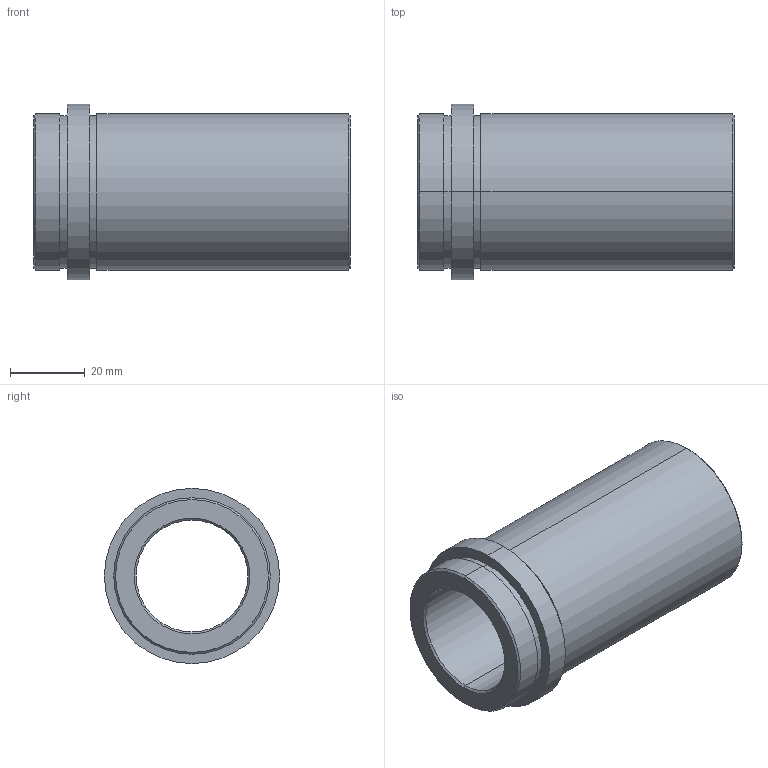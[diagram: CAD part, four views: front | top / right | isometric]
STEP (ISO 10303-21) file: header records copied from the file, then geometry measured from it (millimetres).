
FILE_DESCRIPTION( ( 'STEP AP203' ), '1' );
FILE_NAME( 'C:/Projects/D21 - 30x76.step', '2002-12-31T22:57:17', ( ' ' ), ( ' ' ), 'XStep 1.0', ' ', ' ' );
FILE_SCHEMA( ( 'CONFIG_CONTROL_DESIGN' ) );
Length unit declared in the file: metre
Products named in the file (1): 1
Bounding box: 85 x 47 x 47 mm (x, y, z)
Volume: 59459.4 mm3; surface area: 21492.7 mm2
Topology: 1 solids, 1 shells, 26 faces, 52 edges, 32 vertices
Faces by surface type: revolution 20, bspline 6
Entity records: 773 total; most frequent: CARTESIAN_POINT 169, DIRECTION 106, ORIENTED_EDGE 104, EDGE_CURVE 52, AXIS2_PLACEMENT_3D 33, EDGE_LOOP 32, VERTEX_POINT 32, CIRCLE 32
